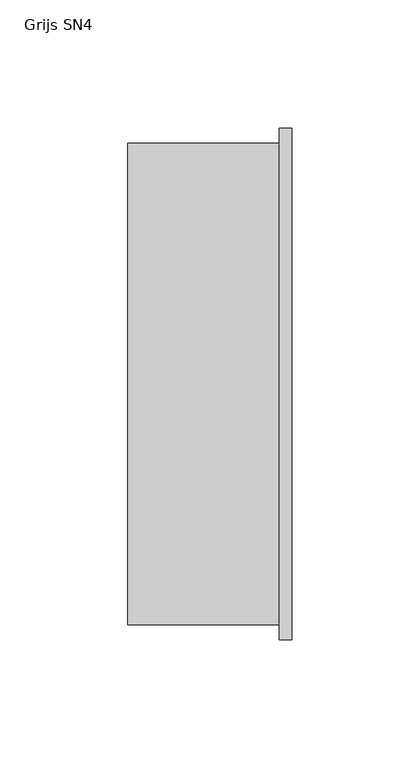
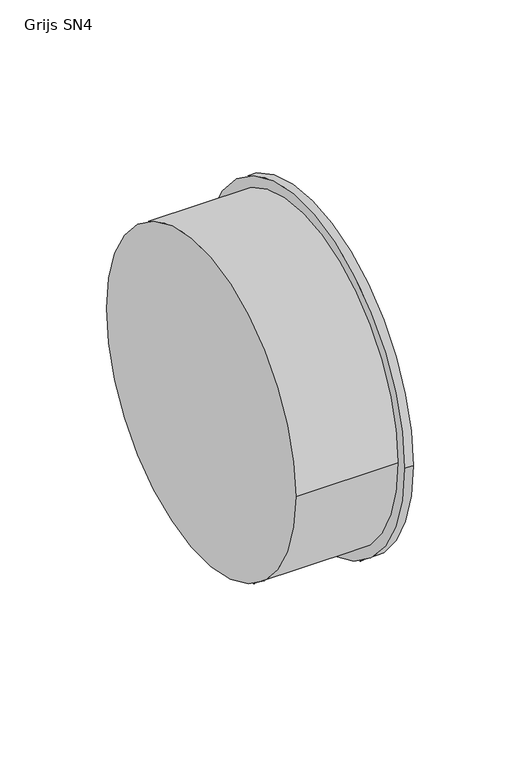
"""IFC4 building model written with IfcOpenShell, lengths in millimetres: pipe fitting geometry, NLRS_52_PIF_UN_SN4 SN8 afsluitkap_Dyka : Grijs SN4."""

from ifc_helpers import new_model, si_unit, point, frame, origin, origin_2d, place, context, project, spatial, circle_curve, trimmed, segment, composite_curve, outline, extrude, source, transform, mapped, element, save


def grijs_sn4_bfa40d82(model_context):
    return source(origin(), model_context, "Body", "SweptSolid", [
        extrude(outline(composite_curve([segment(trimmed(circle_curve(origin_2d(), 100.0), [point((-100.0, 0.0))], [point((100.0, 0.0))], False, "CARTESIAN"), True, "CONTINUOUS"), segment(trimmed(circle_curve(origin_2d(), 100.0), [point((100.0, 0.0))], [point((-100.0, 0.0))], False, "CARTESIAN"), True, "CONTINUOUS")], self_intersect=False)), frame((0.0, 0.0, 0.0), z_axis=(1.0, 0.0, 0.0), x_axis=(0.0, 1.0, 0.0)), (0.0, 0.0, 1.0), 5.0),
        extrude(outline(composite_curve([segment(trimmed(circle_curve(origin_2d(), 94.1), [point((-94.1, 0.0))], [point((94.1, 0.0))], False, "CARTESIAN"), True, "CONTINUOUS"), segment(trimmed(circle_curve(origin_2d(), 94.1), [point((94.1, 0.0))], [point((-94.1, 0.0))], False, "CARTESIAN"), True, "CONTINUOUS")], self_intersect=False)), frame((-59.0, 0.0, 0.0), z_axis=(1.0, 0.0, 0.0), x_axis=(0.0, 1.0, 0.0)), (0.0, 0.0, 1.0), 59.0),
    ])


if __name__ == "__main__":
    model = new_model("IFC4")
    model_context = context("Model", 3, world=origin())
    ifc_project = project(units=[si_unit("LENGTHUNIT", "METRE", prefix="MILLI")], contexts=[model_context])
    site = spatial("IfcSite", under=ifc_project)
    building = spatial("IfcBuilding", under=site)
    placement = place(None, origin())
    grijs_sn4_shape = grijs_sn4_bfa40d82(model_context)
    element("IfcPipeFitting", 1, ObjectType="NLRS_52_PIF_UN_SN4 SN8 afsluitkap_Dyka : Grijs SN4", at=placement, inside=building, context=model_context, shape_type="MappedRepresentation", body=[
        mapped(grijs_sn4_shape, transform((0.0, 0.0, 0.0), x_axis=(1.0, 0.0, 0.0), y_axis=(0.0, 1.0, 0.0), z_axis=(0.0, 0.0, 1.0))),
    ])
    save(model, "model.ifc")
